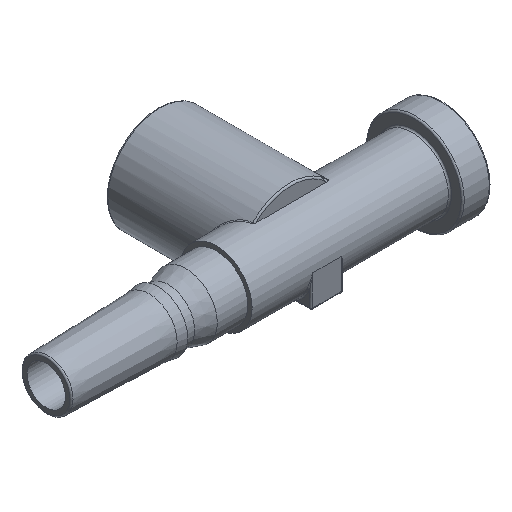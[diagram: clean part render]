
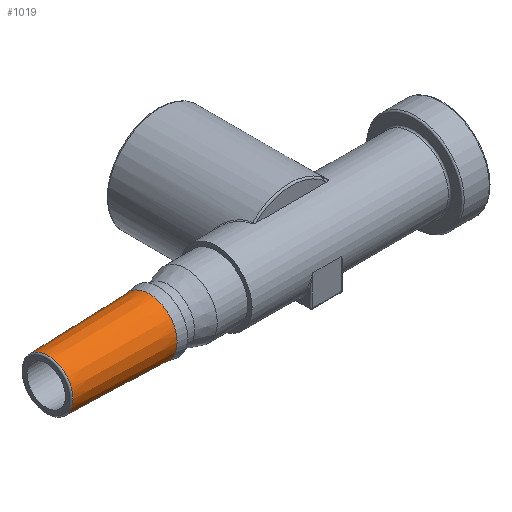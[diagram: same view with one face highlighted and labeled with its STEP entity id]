
A CAD part, isometric view. The second image highlights one B-rep face of the part: STEP entity #1019.
In plain terms, the highlighted conical face has half-angle 1.567 degrees and reference radius 2.08 mm.
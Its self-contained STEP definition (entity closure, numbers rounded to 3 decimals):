
#16=CONICAL_SURFACE('',#1147,2.08,0.027);
#75=LINE('',#2459,#104);
#104=VECTOR('',#1406,2.08);
#173=FACE_OUTER_BOUND('',#239,.T.);
#239=EDGE_LOOP('',(#873,#874,#875,#876,#877,#878,#879));
#354=CIRCLE('',#1143,1.971);
#355=CIRCLE('',#1144,1.971);
#356=CIRCLE('',#1145,1.971);
#358=CIRCLE('',#1148,2.188);
#359=CIRCLE('',#1149,2.188);
#458=VERTEX_POINT('',#2447);
#459=VERTEX_POINT('',#2448);
#460=VERTEX_POINT('',#2450);
#461=VERTEX_POINT('',#2455);
#462=VERTEX_POINT('',#2456);
#604=EDGE_CURVE('',#458,#459,#354,.T.);
#605=EDGE_CURVE('',#460,#458,#355,.T.);
#606=EDGE_CURVE('',#459,#460,#356,.T.);
#608=EDGE_CURVE('',#461,#462,#358,.T.);
#609=EDGE_CURVE('',#462,#461,#359,.T.);
#610=EDGE_CURVE('',#462,#460,#75,.T.);
#873=ORIENTED_EDGE('',*,*,#608,.F.);
#874=ORIENTED_EDGE('',*,*,#609,.F.);
#875=ORIENTED_EDGE('',*,*,#610,.T.);
#876=ORIENTED_EDGE('',*,*,#605,.T.);
#877=ORIENTED_EDGE('',*,*,#604,.T.);
#878=ORIENTED_EDGE('',*,*,#606,.T.);
#879=ORIENTED_EDGE('',*,*,#610,.F.);
#1019=ADVANCED_FACE('',(#173),#16,.T.);
#1143=AXIS2_PLACEMENT_3D('',#2449,#1392,#1393);
#1144=AXIS2_PLACEMENT_3D('',#2451,#1394,#1395);
#1145=AXIS2_PLACEMENT_3D('',#2452,#1396,#1397);
#1147=AXIS2_PLACEMENT_3D('',#2454,#1400,#1401);
#1148=AXIS2_PLACEMENT_3D('',#2457,#1402,#1403);
#1149=AXIS2_PLACEMENT_3D('',#2458,#1404,#1405);
#1392=DIRECTION('center_axis',(1.,0.,0.));
#1393=DIRECTION('ref_axis',(0.,0.,-1.));
#1394=DIRECTION('center_axis',(1.,0.,0.));
#1395=DIRECTION('ref_axis',(0.,0.,-1.));
#1396=DIRECTION('center_axis',(1.,0.,0.));
#1397=DIRECTION('ref_axis',(0.,0.,-1.));
#1400=DIRECTION('center_axis',(1.,0.,0.));
#1401=DIRECTION('ref_axis',(0.,1.,0.));
#1402=DIRECTION('center_axis',(1.,0.,0.));
#1403=DIRECTION('ref_axis',(0.,0.,-1.));
#1404=DIRECTION('center_axis',(1.,0.,0.));
#1405=DIRECTION('ref_axis',(0.,0.,-1.));
#1406=DIRECTION('',(-1.,0.027,0.));
#2447=CARTESIAN_POINT('',(-19.043,1.971,0.));
#2448=CARTESIAN_POINT('',(-19.043,0.,1.971));
#2449=CARTESIAN_POINT('Origin',(-19.043,0.,0.));
#2450=CARTESIAN_POINT('',(-19.043,-1.971,0.));
#2451=CARTESIAN_POINT('Origin',(-19.043,0.,0.));
#2452=CARTESIAN_POINT('Origin',(-19.043,0.,0.));
#2454=CARTESIAN_POINT('Origin',(-15.08,0.,0.));
#2455=CARTESIAN_POINT('',(-11.117,2.188,0.));
#2456=CARTESIAN_POINT('',(-11.117,-2.188,0.));
#2457=CARTESIAN_POINT('Origin',(-11.117,0.,0.));
#2458=CARTESIAN_POINT('Origin',(-11.117,0.,0.));
#2459=CARTESIAN_POINT('',(-15.08,-2.08,0.));
